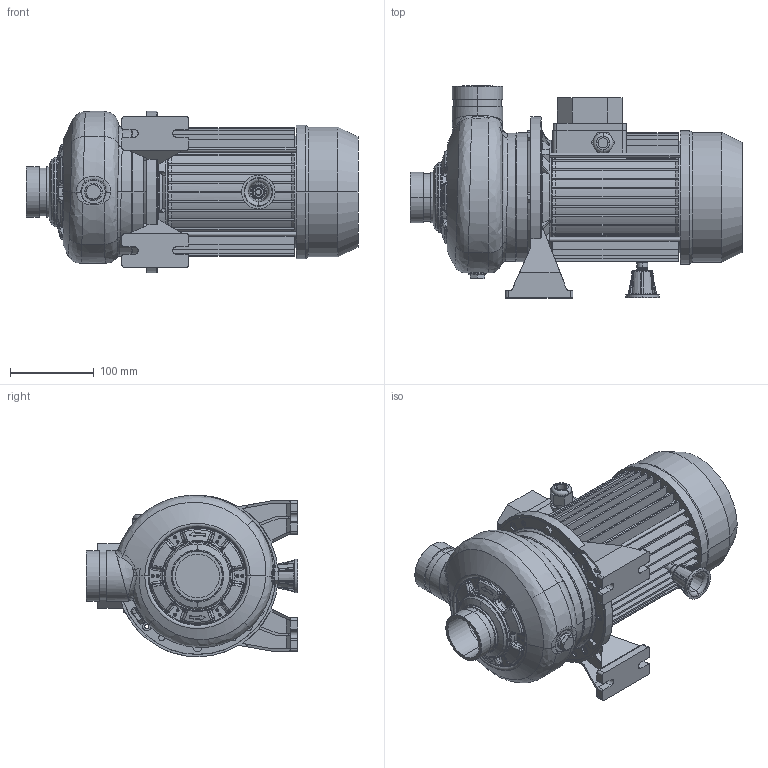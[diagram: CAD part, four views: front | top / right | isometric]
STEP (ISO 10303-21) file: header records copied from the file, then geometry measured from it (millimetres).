
FILE_DESCRIPTION((''),'2;1');
FILE_NAME('DWC_V_500_2_2_IE3_ASM','2016-10-26T',('rosa'),('"Ebara Pumps Europe +39.444.706811"'),'PRO/ENGINEER BY PARAMETRIC TECHNOLOGY CORPORATION, 2012130','PRO/ENGINEER BY PARAMETRIC TECHNOLOGY CORPORATION, 2012130','');
FILE_SCHEMA(('AUTOMOTIVE_DESIGN { 1 0 10303 214 1 1 1 1 }'));
Length unit declared in the file: millimetre
Products named in the file (12): MEC_80X130_IE3; 80596; 251420991; 10054; 76006; 40032; 62074; 10189; 20105_ASM; 72012; 72129; DWC_V_500_2_2_IE3_ASM
Assembly tree (13 placements, depth 3):
  DWC_V_500_2_2_IE3_ASM
    MEC_80X130_IE3
    80596
    20105_ASM
      251420991
      10054
      76006  x2
      40032  x2
      62074
      10189
    72012
    72129
Bounding box: 396.5 x 253 x 192.93 mm (x, y, z)
Volume: 2798362.4 mm3; surface area: 696219.7 mm2
Topology: 12 solids, 12 shells, 1652 faces, 4004 edges, 2428 vertices
Faces by surface type: plane 507, bspline 434, cylinder 312, torus 194, cone 159, sphere 42, extrusion 4
Entity records: 91171 total; most frequent: CARTESIAN_POINT 41523, ORIENTED_EDGE 7826, DIRECTION 6753, EDGE_CURVE 3913, PRESENTATION_STYLE_ASSIGNMENT 3910, STYLED_ITEM 3910, CURVE_STYLE 3901, AXIS2_PLACEMENT_3D 2796
